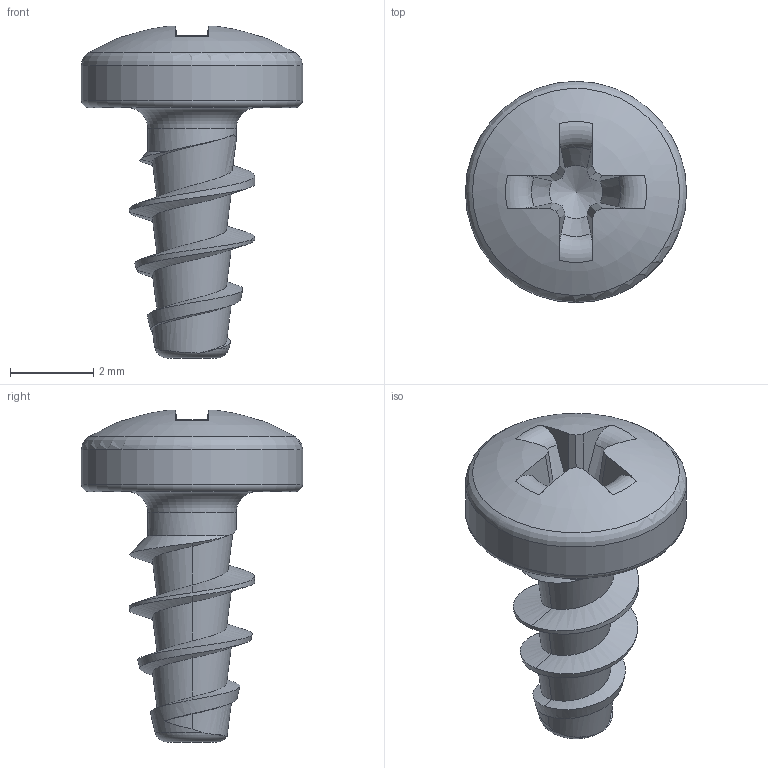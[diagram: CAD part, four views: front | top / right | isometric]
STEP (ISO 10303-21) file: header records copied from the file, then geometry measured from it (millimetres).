
FILE_DESCRIPTION(/* description */ (''),/* implementation_level */ '2;1');
FILE_NAME(/* name */ 'KN1032-Neu-STS-30x6-H.step',/* time_stamp */ '2018-08-15T15:26:43+02:00',/* author */ (''),/* organization */ (''),/* preprocessor_version */ 'ST-DEVELOPER v16',/* originating_system */ 'SIEMENS PLM Software NX 10.0',/* authorisation */ '');
FILE_SCHEMA (('AUTOMOTIVE_DESIGN { 1 0 10303 214 3 1 1 1 }'));
Length unit declared in the file: millimetre
Products named in the file (1): KN1032-STS-30x6-H1
Bounding box: 5.3 x 5.3 x 7.95 mm (x, y, z)
Volume: 51.6 mm3; surface area: 122.4 mm2
Topology: 1 solids, 1 shells, 51 faces, 137 edges, 88 vertices
Faces by surface type: plane 18, bspline 14, torus 8, cone 7, cylinder 3, sphere 1
Full cylindrical faces by diameter (mm): 2.12 x1, 5.3 x1
Entity records: 2407 total; most frequent: CARTESIAN_POINT 1305, ORIENTED_EDGE 246, DIRECTION 177, EDGE_CURVE 123, VERTEX_POINT 83, AXIS2_PLACEMENT_3D 77, B_SPLINE_CURVE_WITH_KNOTS 61, EDGE_LOOP 59
